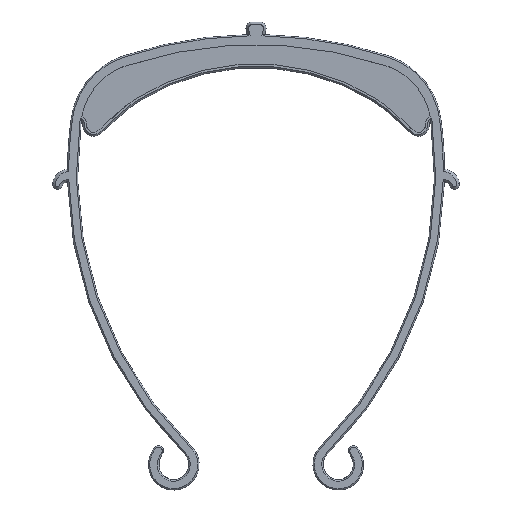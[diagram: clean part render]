
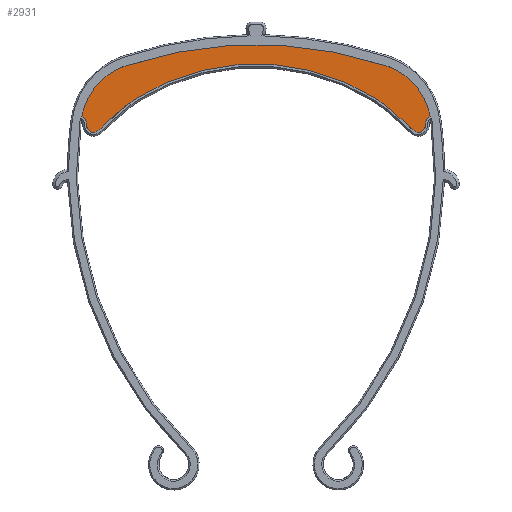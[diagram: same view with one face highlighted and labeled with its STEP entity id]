
A CAD part, top view. The second image highlights one B-rep face of the part: STEP entity #2931.
In plain terms, the highlighted planar face has unit normal (0, 0, 1).
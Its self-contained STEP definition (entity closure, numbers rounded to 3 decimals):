
#758=CARTESIAN_POINT('',(0.016,-70.194,10.6));
#759=DIRECTION('',(0.,0.,1.));
#760=DIRECTION('',(0.532,0.847,0.));
#761=AXIS2_PLACEMENT_3D('',#758,#759,#760);
#763=CARTESIAN_POINT('',(-43.182,-6.717,10.6));
#764=DIRECTION('',(0.,0.,1.));
#765=DIRECTION('',(-0.316,0.949,0.));
#766=AXIS2_PLACEMENT_3D('',#763,#764,#765);
#772=CARTESIAN_POINT('',(-70.457,-4.822,10.6));
#773=DIRECTION('',(0.,0.,1.));
#774=DIRECTION('',(0.996,-0.086,0.));
#775=AXIS2_PLACEMENT_3D('',#772,#773,#774);
#781=CARTESIAN_POINT('',(-47.389,5.316,10.6));
#782=CARTESIAN_POINT('',(-48.946,4.339,10.6));
#783=CARTESIAN_POINT('',(-51.283,2.62,10.6));
#784=CARTESIAN_POINT('',(-53.679,0.429,10.6));
#785=CARTESIAN_POINT('',(-56.363,-1.847,10.6));
#786=CARTESIAN_POINT('',(-59.337,-4.528,10.6));
#787=CARTESIAN_POINT('',(-61.927,-7.213,10.6));
#788=CARTESIAN_POINT('',(-63.825,-8.201,10.6));
#789=CARTESIAN_POINT('',(-64.96,-8.258,10.6));
#790=CARTESIAN_POINT('',(-66.389,-7.343,10.6));
#791=CARTESIAN_POINT('',(-67.159,-6.004,10.6));
#792=CARTESIAN_POINT('',(-67.205,-5.315,10.6));
#793=CARTESIAN_POINT('',(-67.177,-5.109,10.6));
#794=CARTESIAN_POINT('',(-67.177,-5.104,10.6));
#800=CARTESIAN_POINT('',(0.016,-136.397,10.6));
#801=DIRECTION('',(0.,0.,1.));
#802=DIRECTION('',(0.316,0.949,0.));
#803=AXIS2_PLACEMENT_3D('',#800,#801,#802);
#818=CARTESIAN_POINT('',(43.214,-6.717,10.6));
#819=DIRECTION('',(0.,0.,-1.));
#820=DIRECTION('',(0.316,0.949,0.));
#821=AXIS2_PLACEMENT_3D('',#818,#819,#820);
#827=CARTESIAN_POINT('',(70.49,-4.822,10.6));
#828=DIRECTION('',(0.,0.,-1.));
#829=DIRECTION('',(-0.996,-0.086,0.));
#830=AXIS2_PLACEMENT_3D('',#827,#828,#829);
#836=CARTESIAN_POINT('',(47.421,5.316,10.6));
#837=CARTESIAN_POINT('',(48.978,4.339,10.6));
#838=CARTESIAN_POINT('',(51.315,2.62,10.6));
#839=CARTESIAN_POINT('',(53.711,0.429,10.6));
#840=CARTESIAN_POINT('',(56.396,-1.846,10.6));
#841=CARTESIAN_POINT('',(59.369,-4.528,10.6));
#842=CARTESIAN_POINT('',(61.959,-7.213,10.6));
#843=CARTESIAN_POINT('',(63.857,-8.201,10.6));
#844=CARTESIAN_POINT('',(64.993,-8.257,10.6));
#845=CARTESIAN_POINT('',(66.421,-7.342,10.6));
#846=CARTESIAN_POINT('',(67.191,-6.004,10.6));
#847=CARTESIAN_POINT('',(67.237,-5.314,10.6));
#848=CARTESIAN_POINT('',(67.21,-5.109,10.6));
#849=CARTESIAN_POINT('',(67.209,-5.103,10.6));
#2278=CARTESIAN_POINT('',(-51.499,18.248,10.6));
#2279=CARTESIAN_POINT('',(-69.042,-1.849,10.6));
#2280=VERTEX_POINT('',#2278);
#2281=VERTEX_POINT('',#2279);
#2282=CARTESIAN_POINT('',(51.531,18.248,10.6));
#2283=VERTEX_POINT('',#2282);
#2284=CARTESIAN_POINT('',(69.074,-1.849,10.6));
#2285=VERTEX_POINT('',#2284);
#2286=CARTESIAN_POINT('',(47.421,5.316,10.6));
#2287=CARTESIAN_POINT('',(-47.389,5.316,10.6));
#2288=VERTEX_POINT('',#2286);
#2289=VERTEX_POINT('',#2287);
#2312=VERTEX_POINT('',#794);
#2313=VERTEX_POINT('',#849);
#2909=CARTESIAN_POINT('',(0.,0.,10.6));
#2910=DIRECTION('',(0.,0.,1.));
#2911=DIRECTION('',(1.,0.,0.));
#2912=AXIS2_PLACEMENT_3D('',#2909,#2910,#2911);
#2913=PLANE('',#2912);
#2915=ORIENTED_EDGE('',*,*,#2914,.F.);
#2917=ORIENTED_EDGE('',*,*,#2916,.F.);
#2919=ORIENTED_EDGE('',*,*,#2918,.T.);
#2921=ORIENTED_EDGE('',*,*,#2920,.F.);
#2923=ORIENTED_EDGE('',*,*,#2922,.F.);
#2924=ORIENTED_EDGE('',*,*,#2899,.T.);
#2926=ORIENTED_EDGE('',*,*,#2925,.T.);
#2928=ORIENTED_EDGE('',*,*,#2927,.T.);
#2929=EDGE_LOOP('',(#2915,#2917,#2919,#2921,#2923,#2924,#2926,#2928));
#2930=FACE_OUTER_BOUND('',#2929,.F.);
#2931=ADVANCED_FACE('',(#2930),#2913,.T.);
#762=CIRCLE('',#761,89.157);
#767=CIRCLE('',#766,26.314);
#776=CIRCLE('',#775,3.293);
#795=B_SPLINE_CURVE_WITH_KNOTS('',3,(#781,#782,#783,#784,#785,#786,#787,#788,
#789,#790,#791,#792,#793,#794),.UNSPECIFIED.,.F.,.F.,(4,1,1,1,1,1,1,1,1,1,1,4),(
0.,0.144,0.289,0.424,0.559,
0.691,0.757,0.823,0.895,
0.966,0.999,1.),.UNSPECIFIED.);
#804=CIRCLE('',#803,163.);
#822=CIRCLE('',#821,26.314);
#831=CIRCLE('',#830,3.293);
#850=B_SPLINE_CURVE_WITH_KNOTS('',3,(#836,#837,#838,#839,#840,#841,#842,#843,
#844,#845,#846,#847,#848,#849),.UNSPECIFIED.,.F.,.F.,(4,1,1,1,1,1,1,1,1,1,1,4),(
0.,0.144,0.289,0.424,0.559,
0.691,0.757,0.823,0.895,
0.966,0.999,1.),.UNSPECIFIED.);
#2899=EDGE_CURVE('',#2288,#2289,#762,.T.);
#2914=EDGE_CURVE('',#2280,#2281,#767,.T.);
#2916=EDGE_CURVE('',#2283,#2280,#804,.T.);
#2918=EDGE_CURVE('',#2283,#2285,#822,.T.);
#2920=EDGE_CURVE('',#2313,#2285,#831,.T.);
#2922=EDGE_CURVE('',#2288,#2313,#850,.T.);
#2925=EDGE_CURVE('',#2289,#2312,#795,.T.);
#2927=EDGE_CURVE('',#2312,#2281,#776,.T.);
